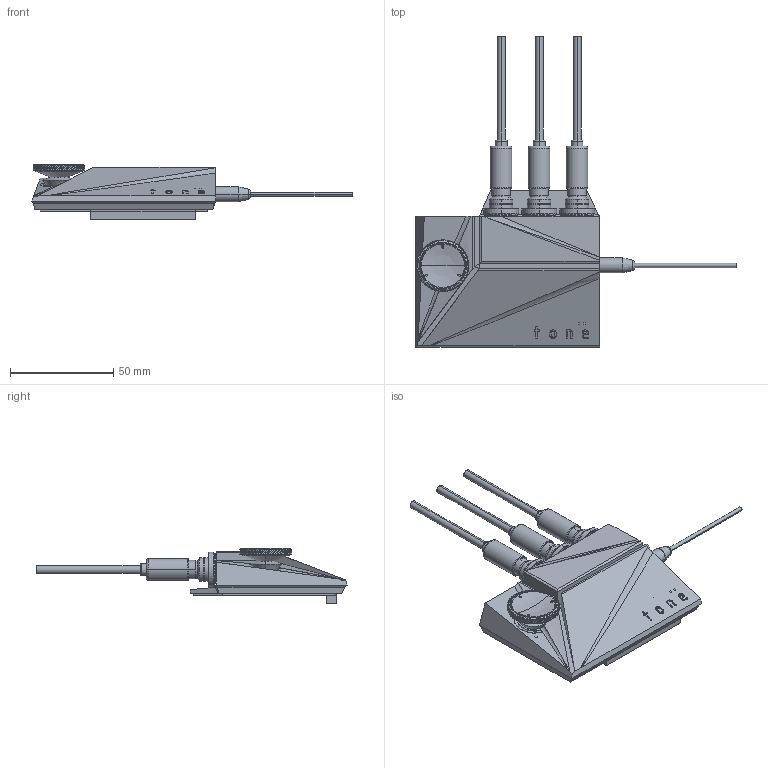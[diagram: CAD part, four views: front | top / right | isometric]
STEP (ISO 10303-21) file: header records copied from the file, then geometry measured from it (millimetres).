
FILE_DESCRIPTION((''),'2;1');
FILE_NAME('ALL-A_ASM','2020-06-17T10:53:01',('Administrator'),(''),'CREO PARAMETRIC BY PTC INC, 2017110','CREO PARAMETRIC BY PTC INC, 2017110','');
FILE_SCHEMA(('CONFIG_CONTROL_DESIGN'));
Products named in the file (52): TOP-1; KHADAS_TONE_A_R; TONE_A_FOOT_RUBBER; KHADAS_TONE_A_R_ASM; M1-6_16; K671-RJ-255ABKPL_OUT; TONE_V13_PCB; TONE_V13_PCB_1; K671-RJ-255ABKPL_1; K671-RJ-255ABKPL_2; K671-RJ-255ABKPL_3; K671-RJ-255ABKPL_4; K671-RJ-255ABKPL_5; K671-RJ-255ABKPL_6; K671-RJ-255ABKPL_ASM; SCREW_MAT; TYPE-C_16PIN; KHADAS_TONE_SMALL_PCB; _SRBE110301; KHADAS_TONE_SMALL_PCB_ASM; DATA_LINE_OUY; DATA_LINE_A; DATA_LINE_B; DATA_LINE_C; DATA_LINE_D; DATA_LINE_E; DATA_LINE_ASM; TLM; RECOMMEND; RECOMMEND_A; RECOMMEND_B; RECOMMEND_ASM; P1XX_A; P1XX_B; P1XX-12XXXXXMXXXX1_ASM; KHADAS_TONE_SMALL_2PCB; _D-PHONE_2; EARPHONE_PLUG_3_5_4_4; D-PHONE_2_ASM; P1XX_2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
Assembly tree (64 placements, depth 5):
  ALL-A_ASM
    TOP-1
    KHADAS_TONE_A_R_ASM
      KHADAS_TONE_A_R
      TONE_A_FOOT_RUBBER
    M1-6_16  x4
    TONE_V13_PCB_ASM
      K671-RJ-255ABKPL_OUT
      TONE_V13_PCB
      TONE_V13_PCB_1
      K671-RJ-255ABKPL_ASM  x3
        K671-RJ-255ABKPL_1
        K671-RJ-255ABKPL_2
        K671-RJ-255ABKPL_3
        K671-RJ-255ABKPL_4
        K671-RJ-255ABKPL_5
        K671-RJ-255ABKPL_OUT
        K671-RJ-255ABKPL_6
      SCREW_MAT
      TYPE-C_16PIN  x2
      KHADAS_TONE_SMALL_PCB_ASM
        KHADAS_TONE_SMALL_PCB
        _SRBE110301
      DATA_LINE_ASM  x3
        DATA_LINE_OUY
        DATA_LINE_A
        DATA_LINE_B
        DATA_LINE_C
        DATA_LINE_D
        DATA_LINE_E
      TLM
      RECOMMEND_ASM
        RECOMMEND
        RECOMMEND_A
        RECOMMEND_B
      P1XX-12XXXXXMXXXX1_ASM
        P1XX_A
        P1XX_B
      KHADAS_TONE_SMALL_2PCB_ASM
        KHADAS_TONE_SMALL_2PCB
        D-PHONE_2_ASM
          _D-PHONE_2
          EARPHONE_PLUG_3_5_4_4
        P1XX_2
    M2_4  x5
    TONE_A_KNOB_ASM
      TONE_A_KNOB
      TONE_A_KNOB_DECO
      TONE_A_KNOB_DWECO
    Z-1
    P-1
    M2-4-D6
    DGT-1
Bounding box: 155.16 x 150.37 x 27.07 mm (x, y, z)
Volume: 76737.1 mm3; surface area: 86025.4 mm2
Topology: 140 solids, 141 shells, 3847 faces, 9886 edges, 6421 vertices
Faces by surface type: plane 2181, cylinder 1044, extrusion 189, bspline 167, torus 130, cone 128, sphere 8
Entity records: 114087 total; most frequent: CARTESIAN_POINT 33202, ORIENTED_EDGE 16888, DIRECTION 15721, EDGE_CURVE 8444, VECTOR 5753, LINE 5564, VERTEX_POINT 5518, AXIS2_PLACEMENT_3D 4984
